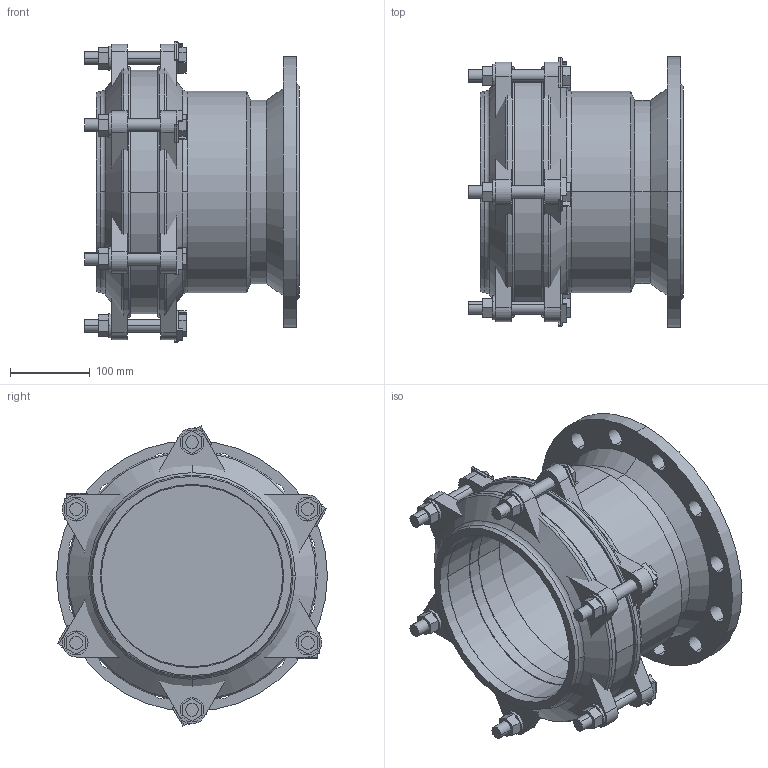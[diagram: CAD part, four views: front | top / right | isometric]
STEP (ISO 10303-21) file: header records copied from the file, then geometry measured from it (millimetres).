
FILE_DESCRIPTION(('STEP AP214'),'1');
FILE_NAME('EM100056 DN 200.STP','2015-01-29T13:31:25',(' '),(' '),'Spatial InterOp 3D',' ',' ');
FILE_SCHEMA(('automotive_design'));
Length unit declared in the file: millimetre
Products named in the file (58): 3D-Objekt
Bounding box: 269 x 340 x 376.92 mm (x, y, z)
Volume: 5459656.9 mm3; surface area: 1266454.1 mm2
Topology: 58 solids, 58 shells, 437 faces, 960 edges, 638 vertices
Faces by surface type: plane 295, cylinder 112, cone 18, torus 12
Entity records: 16932 total; most frequent: DIRECTION 2240, CARTESIAN_POINT 2093, ORIENTED_EDGE 1920, EDGE_CURVE 960, AXIS2_PLACEMENT_3D 785, LINE 670, VECTOR 670, VERTEX_POINT 638
